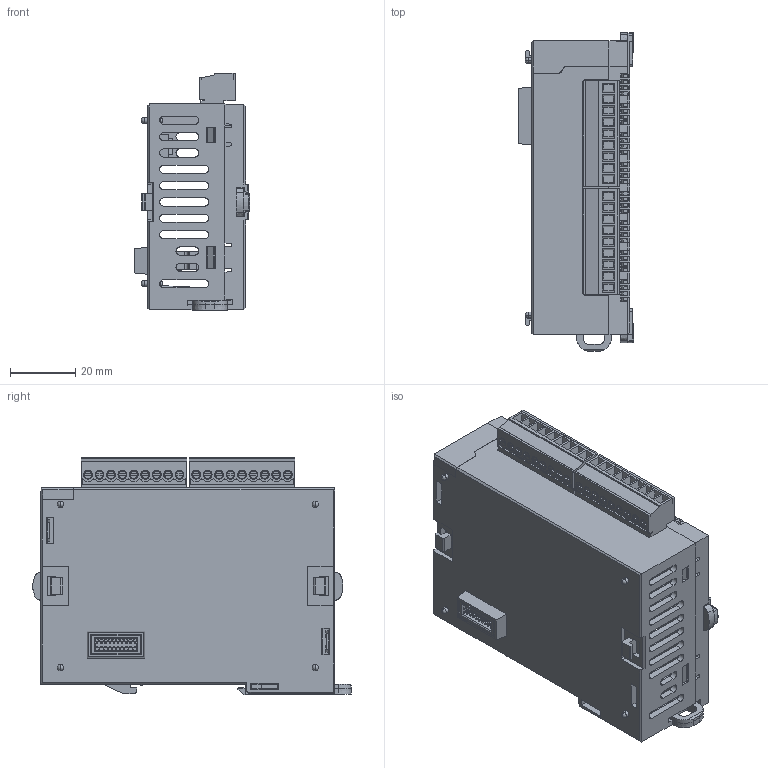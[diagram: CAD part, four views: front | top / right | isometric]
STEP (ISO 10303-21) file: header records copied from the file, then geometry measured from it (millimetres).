
FILE_DESCRIPTION (( 'STEP AP214' ), '1' );
FILE_NAME ('CM3-SP16EDR(EOR)_目池磐 器窃.STEP', '2025-10-20T04:15:29', ( '' ), ( '' ), 'SwSTEP 2.0', 'SolidWorks 2024', '' );
FILE_SCHEMA (( 'AUTOMOTIVE_DESIGN' ));
Length unit declared in the file: millimetre
Products named in the file (1): CM3-SP16EDR(EOR)_커넥터 포함
Bounding box: 35.2 x 97.47 x 72.68 mm (x, y, z)
Volume: 42972.9 mm3; surface area: 59560.8 mm2
Topology: 1 solids, 20 shells, 4602 faces, 12528 edges, 8055 vertices
Faces by surface type: plane 4006, cylinder 439, cone 68, bspline 55, sphere 20, torus 14
Full cylindrical faces by diameter (mm): 1.9 x18, 2.3 x18, 2.7 x18
Entity records: 143595 total; most frequent: CARTESIAN_POINT 26930, ORIENTED_EDGE 24792, DIRECTION 22103, EDGE_CURVE 12396, LINE 11109, VECTOR 11109, VERTEX_POINT 7993, AXIS2_PLACEMENT_3D 5497
